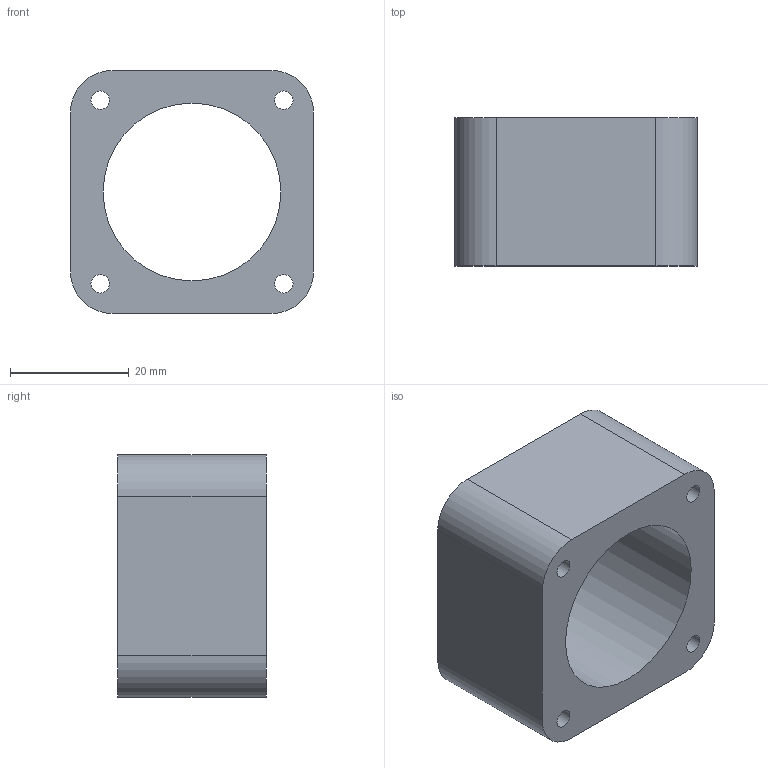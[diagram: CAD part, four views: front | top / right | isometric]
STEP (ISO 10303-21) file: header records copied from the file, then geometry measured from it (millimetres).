
FILE_DESCRIPTION(/* description */ ('STEP AP242 Edition 2','CAx-IF Rec.Pracs.---Representation and Presentation of Product Manufacturing Information (PMI)---4.0---2014-10-13','CAx-IF Rec.Pracs.---3D Tessellated Geometry---0.4---2014-09-14','2;1','CAx-IF Rec.Pracs.---User Defined Attributes---1.5---2016-08-15'),/* implementation_level */ '2;1');
FILE_NAME(/* name */ 'Assembly V2 - corp stator v1',/* time_stamp */ '2026-02-05T22:44:39Z',/* author */ (''),/* organization */ (''),/* preprocessor_version */ 'ST-DEVELOPER v20',/* originating_system */ 'ONSHAPE BY PTC INC, 1.210',/* authorisation */ ' ');
FILE_SCHEMA (('AP242_MANAGED_MODEL_BASED_3D_ENGINEERING_MIM_LF { 1 0 10303 442 3 1 4 }'));
Length unit declared in the file: metre
Products named in the file (1): corp stator v1
Bounding box: 41 x 25 x 41 mm (x, y, z)
Volume: 22547.2 mm3; surface area: 8933.4 mm2
Topology: 1 solids, 1 shells, 15 faces, 39 edges, 26 vertices
Faces by surface type: cylinder 9, plane 6
Full cylindrical faces by diameter (mm): 3.1 x4, 30 x1
Entity records: 488 total; most frequent: DIRECTION 84, CARTESIAN_POINT 76, ORIENTED_EDGE 68, EDGE_CURVE 34, AXIS2_PLACEMENT_3D 34, EDGE_LOOP 30, FACE_BOUND 30, VERTEX_POINT 26
